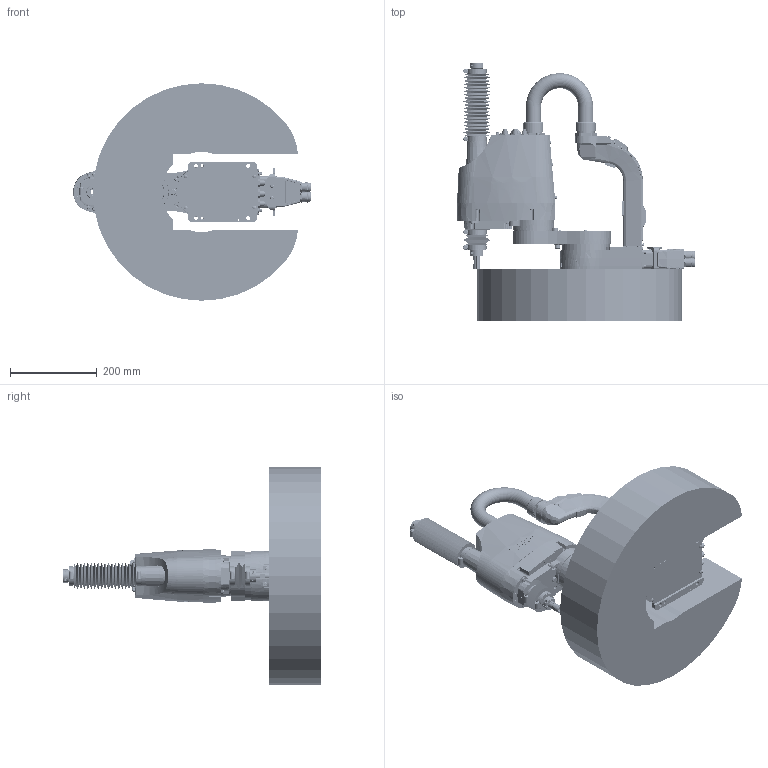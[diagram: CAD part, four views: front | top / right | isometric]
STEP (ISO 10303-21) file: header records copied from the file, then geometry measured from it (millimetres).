
FILE_DESCRIPTION( ( 'STEP AP214' ), '1' );
FILE_NAME( 'C:/Users/9607552/Desktop/GX4-A/GX4-A251CS-W.stp', '2023-04-07T04:37:16', ( '' ), ( '' ), ' ', 'PARTsolutions', ' ' );
FILE_SCHEMA( ( 'AUTOMOTIVE_DESIGN { 1 0 10303 214 1 1 1 1 }' ) );
Length unit declared in the file: millimetre
Products named in the file (10): GX4-A251CS-W; _A251C-b; _A251S_J1_ARM; _A251S-a; _A251S_CONDUIT; _A251C; _A251C-long; _A251C-short; _Straight; _GX4-22_WS
Assembly tree (9 placements, depth 2):
  GX4-A251CS-W
    _A251C-b
    _A251S_J1_ARM
    _A251S-a
    _A251S_CONDUIT
    _A251C
    _A251C-long
    _A251C-short
    _Straight
    _GX4-22_WS
Bounding box: 547.01 x 593.5 x 500 mm (x, y, z)
Volume: 25192427.6 mm3; surface area: 1412978.3 mm2
Topology: 9 solids, 9 shells, 4189 faces, 10225 edges, 6625 vertices
Faces by surface type: plane 2407, cylinder 1112, cone 450, torus 127, bspline 90, sphere 3
Full cylindrical faces by diameter (mm): 1 x30, 1.13 x55, 1.18 x55, 2.459 x4, 2.5 x18, 2.99 x1, 3 x47, 3.2 x3, 3.242 x1, 3.3 x41, 3.4 x32, 3.5 x12, 4 x5, 4.5 x16, 4.8 x8, 4.917 x2, 5.34 x8, 5.4 x14, 5.5 x26, 5.6 x4, 5.68 x4, 6 x21, 6.5 x12, 6.7 x4, 6.8 x4, 7 x44, 7.1 x4, 8 x16, 8.2 x8, 8.3 x4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
Entity records: 157115 total; most frequent: CARTESIAN_POINT 30560, DIRECTION 18456, ORIENTED_EDGE 18290, EDGE_CURVE 9145, AXIS2_PLACEMENT_3D 7052, VERTEX_POINT 6506, EDGE_LOOP 5756, FACE_OUTER_BOUND 4865
